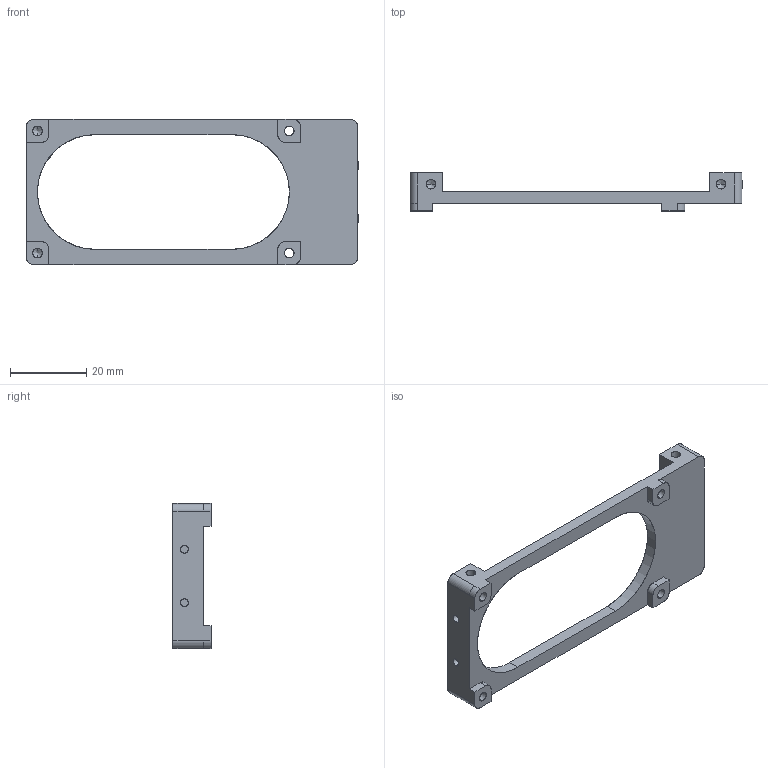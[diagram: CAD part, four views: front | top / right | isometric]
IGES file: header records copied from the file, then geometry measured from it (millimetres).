
Start section: SolidWorks IGES file using analytic representation for surfaces
Global section: file name: C:\Users\OSSI\Desktop\OSSIStructureNew\3dCNC\IGES\BatteryStructureFront.IGS; native system: SolidWorks 2011; preprocessor: SolidWorks 2011; author: OSSI; date: 120522.044047; units: millimetre
Bounding box: 87 x 10 x 38 mm (x, y, z)
Surface area: 5888.8 mm2 (no closed solid volume)
Topology: 0 solids, 0 shells, 81 faces, 1190 edges, 1174 vertices
Faces by surface type: revolution 54, bspline 27
